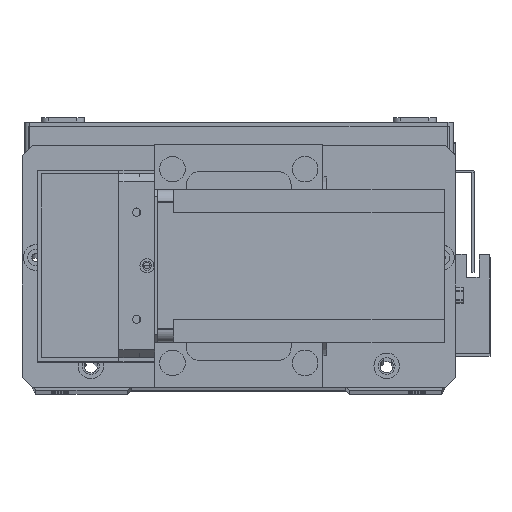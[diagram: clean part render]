
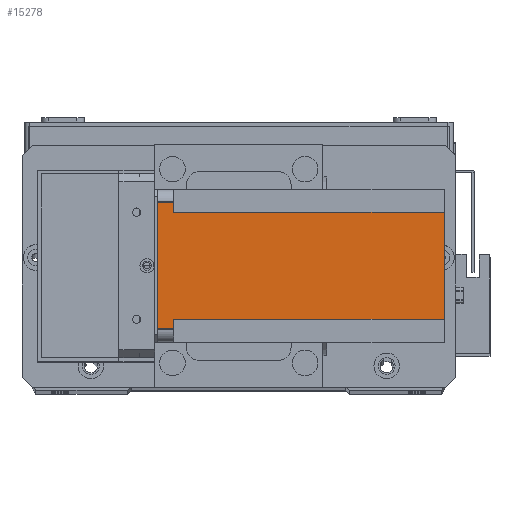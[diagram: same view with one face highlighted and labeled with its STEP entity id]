
A CAD part, top view. The second image highlights one B-rep face of the part: STEP entity #15278.
In plain terms, the highlighted planar face has unit normal (0, 0, 1) as drawn and (-1, 0, 0) by its records, which use the part's own axes.
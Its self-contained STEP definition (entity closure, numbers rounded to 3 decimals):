
#1040 = PLANE ( 'NONE',  #4594 ) ;
#2292 = EDGE_CURVE ( 'NONE', #13626, #2828, #25584, .T. ) ;
#2513 = ORIENTED_EDGE ( 'NONE', *, *, #26107, .T. ) ;
#2828 = VERTEX_POINT ( 'NONE', #28809 ) ;
#3001 = CARTESIAN_POINT ( 'NONE',  ( 0., 0., -112.5 ) ) ;
#3441 = LINE ( 'NONE', #29222, #16374 ) ;
#3499 = DIRECTION ( 'NONE',  ( 0., -1., 0. ) ) ;
#3852 = CARTESIAN_POINT ( 'NONE',  ( 0., 5., 0. ) ) ;
#3921 = VERTEX_POINT ( 'NONE', #18315 ) ;
#4355 = CARTESIAN_POINT ( 'NONE',  ( 0., 51., -112.5 ) ) ;
#4594 = AXIS2_PLACEMENT_3D ( 'NONE', #17978, #18073, #3499 ) ;
#4935 = DIRECTION ( 'NONE',  ( 0., 0., -1. ) ) ;
#6680 = CARTESIAN_POINT ( 'NONE',  ( 0., 60., -6.5 ) ) ;
#7354 = DIRECTION ( 'NONE',  ( 0., 0., 1. ) ) ;
#8380 = VERTEX_POINT ( 'NONE', #30591 ) ;
#8694 = ORIENTED_EDGE ( 'NONE', *, *, #20276, .T. ) ;
#8756 = VECTOR ( 'NONE', #9164, 1000. ) ;
#9007 = LINE ( 'NONE', #30690, #21924 ) ;
#9104 = CARTESIAN_POINT ( 'NONE',  ( 0., 9., -112.5 ) ) ;
#9164 = DIRECTION ( 'NONE',  ( 0., 1., 0. ) ) ;
#9308 = DIRECTION ( 'NONE',  ( 0., 0., 1. ) ) ;
#10085 = CARTESIAN_POINT ( 'NONE',  ( 0., 5., -6.5 ) ) ;
#10142 = EDGE_CURVE ( 'NONE', #3921, #2828, #14465, .T. ) ;
#10152 = LINE ( 'NONE', #4355, #28707 ) ;
#10601 = DIRECTION ( 'NONE',  ( 0., 0., -1. ) ) ;
#11005 = VERTEX_POINT ( 'NONE', #10085 ) ;
#12539 = EDGE_CURVE ( 'NONE', #12772, #3921, #10152, .T. ) ;
#12711 = VECTOR ( 'NONE', #4935, 1000. ) ;
#12772 = VERTEX_POINT ( 'NONE', #25218 ) ;
#12962 = EDGE_CURVE ( 'NONE', #13626, #23468, #9007, .T. ) ;
#13571 = ORIENTED_EDGE ( 'NONE', *, *, #27999, .F. ) ;
#13626 = VERTEX_POINT ( 'NONE', #26103 ) ;
#13845 = DIRECTION ( 'NONE',  ( 0., -1., 0. ) ) ;
#14465 = LINE ( 'NONE', #6680, #8756 ) ;
#15117 = EDGE_LOOP ( 'NONE', ( #19184, #2513, #29623, #22301, #29811, #23441, #8694, #13571 ) ) ;
#15278 = ADVANCED_FACE ( 'NONE', ( #25940 ), #1040, .T. ) ;
#15581 = LINE ( 'NONE', #24063, #21260 ) ;
#16374 = VECTOR ( 'NONE', #7354, 1000. ) ;
#16835 = DIRECTION ( 'NONE',  ( 0., 1., 0. ) ) ;
#17978 = CARTESIAN_POINT ( 'NONE',  ( 0., 0., -112.5 ) ) ;
#18073 = DIRECTION ( 'NONE',  ( -1., 0., 0. ) ) ;
#18315 = CARTESIAN_POINT ( 'NONE',  ( 0., 51., -6.5 ) ) ;
#19184 = ORIENTED_EDGE ( 'NONE', *, *, #19992, .F. ) ;
#19347 = LINE ( 'NONE', #3001, #26549 ) ;
#19538 = CARTESIAN_POINT ( 'NONE',  ( 0., 55., -112.5 ) ) ;
#19992 = EDGE_CURVE ( 'NONE', #11005, #8380, #15581, .T. ) ;
#20255 = CARTESIAN_POINT ( 'NONE',  ( 0., 9., -112.5 ) ) ;
#20276 = EDGE_CURVE ( 'NONE', #12772, #21211, #19347, .T. ) ;
#21211 = VERTEX_POINT ( 'NONE', #9104 ) ;
#21260 = VECTOR ( 'NONE', #16835, 1000. ) ;
#21924 = VECTOR ( 'NONE', #13845, 1000. ) ;
#21962 = LINE ( 'NONE', #20255, #26873 ) ;
#22301 = ORIENTED_EDGE ( 'NONE', *, *, #2292, .T. ) ;
#22579 = DIRECTION ( 'NONE',  ( 0., -1., 0. ) ) ;
#23441 = ORIENTED_EDGE ( 'NONE', *, *, #12539, .F. ) ;
#23468 = VERTEX_POINT ( 'NONE', #3852 ) ;
#24063 = CARTESIAN_POINT ( 'NONE',  ( 0., 0., -6.5 ) ) ;
#25218 = CARTESIAN_POINT ( 'NONE',  ( 0., 51., -112.5 ) ) ;
#25584 = LINE ( 'NONE', #19538, #12711 ) ;
#25940 = FACE_OUTER_BOUND ( 'NONE', #15117, .T. ) ;
#26103 = CARTESIAN_POINT ( 'NONE',  ( 0., 55., 0. ) ) ;
#26107 = EDGE_CURVE ( 'NONE', #11005, #23468, #3441, .T. ) ;
#26549 = VECTOR ( 'NONE', #22579, 1000. ) ;
#26873 = VECTOR ( 'NONE', #10601, 1000. ) ;
#27999 = EDGE_CURVE ( 'NONE', #8380, #21211, #21962, .T. ) ;
#28707 = VECTOR ( 'NONE', #9308, 1000. ) ;
#28809 = CARTESIAN_POINT ( 'NONE',  ( 0., 55., -6.5 ) ) ;
#29222 = CARTESIAN_POINT ( 'NONE',  ( 0., 5., -112.5 ) ) ;
#29623 = ORIENTED_EDGE ( 'NONE', *, *, #12962, .F. ) ;
#29811 = ORIENTED_EDGE ( 'NONE', *, *, #10142, .F. ) ;
#30591 = CARTESIAN_POINT ( 'NONE',  ( 0., 9., -6.5 ) ) ;
#30690 = CARTESIAN_POINT ( 'NONE',  ( 0., 0., 0. ) ) ;
